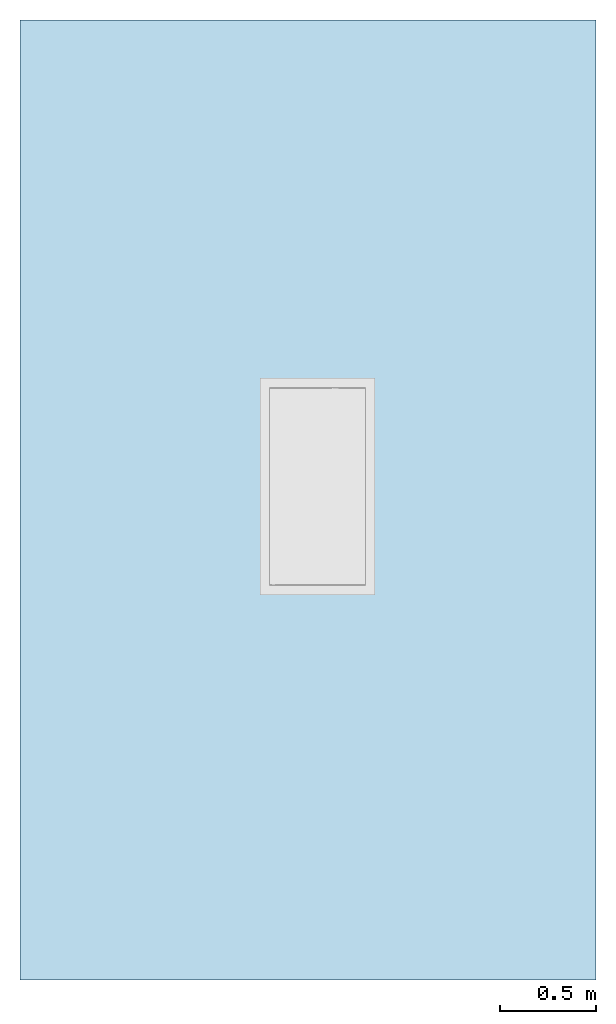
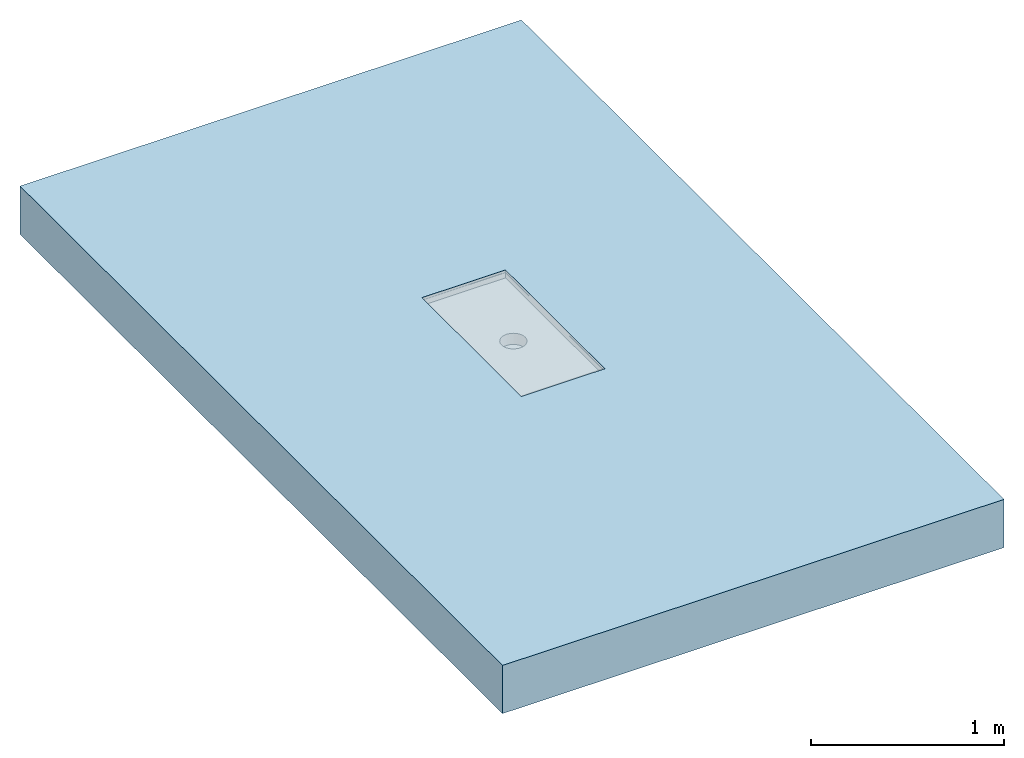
# One storey, incomplete: 1 slab, 1 opening.
"""IFC2X3 building model written with IfcOpenShell, lengths in millimetres."""

from ifc_helpers import new_model, entity, si_unit, converted_unit, derived_unit, direction, frame, frame_2d, origin, place, context, subcontext, project, spatial, rectangle, extrude, faceted_brep, material, layer, layer_set, layer_usage, element, save


model = new_model("IFC2X3")

# Units and contexts
model_context = context("Model", 3, precision=1e-05, world=origin(), true_north=direction((2.0, 6.12303176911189e-17, 1.0)))
context_of_model = context(None, 3, precision=1e-05, world=origin(), true_north=direction((2.0, 6.12303176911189e-17, 1.0)))
body_context = subcontext(model_context, "Body", "Model", "MODEL_VIEW")
ifc_project = project(units=[si_unit("LENGTHUNIT", "METRE", prefix="MILLI"), converted_unit("AREAUNIT", "SQUARE FOOT", entity("IfcRatioMeasure", 0.09290304), si_unit("AREAUNIT", "SQUARE_METRE"), dimensions=[2, 0, 0, 0, 0, 0, 0]), converted_unit("VOLUMEUNIT", "CUBIC FOOT", entity("IfcRatioMeasure", 0.028316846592), si_unit("VOLUMEUNIT", "CUBIC_METRE"), dimensions=[3, 0, 0, 0, 0, 0, 0]), converted_unit("PLANEANGLEUNIT", "DEGREE", entity("IfcRatioMeasure", 0.0174532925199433), si_unit("PLANEANGLEUNIT", "RADIAN"), dimensions=[0, 0, 0, 0, 0, 0, 0]), si_unit("MASSUNIT", "GRAM", prefix="KILO"), si_unit("TIMEUNIT", "SECOND"), si_unit("THERMODYNAMICTEMPERATUREUNIT", "KELVIN"), derived_unit("THERMALTRANSMITTANCEUNIT", [(si_unit("MASSUNIT", "GRAM", prefix="KILO"), 1), (si_unit("THERMODYNAMICTEMPERATUREUNIT", "KELVIN"), -1), (si_unit("TIMEUNIT", "SECOND"), -3)]), derived_unit("VOLUMETRICFLOWRATEUNIT", [(si_unit("LENGTHUNIT", "METRE"), 3), (si_unit("TIMEUNIT", "SECOND"), -1)]), si_unit("POWERUNIT", "WATT")], contexts=[model_context, context_of_model])

# Site, building, storey
site_placement = place(None, origin())
site = spatial("IfcSite", under=ifc_project, at=site_placement, Name="Default", CompositionType="ELEMENT")
building_placement = place(site_placement, origin())
building = spatial("IfcBuilding", under=site, at=building_placement, CompositionType="ELEMENT")
storey_placement = place(building_placement, origin())
storey = spatial("IfcBuildingStorey", under=building, at=storey_placement, Name="Level 1", CompositionType="ELEMENT", Elevation=0.0)

# Slab, opening
ifc_material = material(Name="Default Floor")
ifc_layer = layer(ifc_material, 304.8)
ifc_layer_set = layer_set([ifc_layer], Name="Floor:Generic - 12\"")
ifc_layer_usage = layer_usage(ifc_layer_set, "AXIS3", "POSITIVE", 0.0)
slab_placement = place(storey_placement, frame((-2592.42688678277, 381.838531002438, -304.8)))
slab = element("IfcSlab", 1, at=slab_placement, inside=storey, material=ifc_layer_usage, Name="Floor:Generic - 12\"", ObjectType="Floor:Generic - 12\"", PredefinedType="FLOOR", context=body_context, shape_type="SweptSolid", body=[
    extrude(rectangle(XDim=5000.0, YDim=3000.0, at=frame_2d((0.0, 0.0), x_axis=(0.0, -1.0))), frame((1500.0, 2500.0, 304.8), z_axis=(0.0, 0.0, -1.0), x_axis=(-1.0, 0.0, 0.0)), (0.0, 0.0, 1.0), 304.8),
])
opening_placement = place(slab_placement, frame((1249.39778688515, 2005.9417424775, 184.151793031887)))
element("IfcOpeningElement", 2, at=opening_placement, cuts=slab, ObjectType="Recess", context=body_context, shape_type="Brep", body=[
    faceted_brep([(549.667309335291, 50.0, 70.6482069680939), (549.667309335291, 50.0, 104.148206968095), (50.0, 50.0, 70.6482069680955), (50.0, 50.0, 104.148206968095), (549.667309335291, 50.0, 105.648206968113), (549.667309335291, 50.0, 120.648206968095), (50.0, 50.0, 120.648206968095), (50.0, 50.0, 105.648206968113), (50.0, 1080.0, 70.6482069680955), (50.0, 1080.0, 104.148206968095), (549.667309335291, 1080.0, 104.148206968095), (549.667309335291, 1080.0, 70.6482069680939), (50.0, 1080.0, 105.648206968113), (50.0, 1080.0, 120.648206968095), (549.667309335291, 1080.0, 120.648206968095), (549.667309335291, 1080.0, 105.648206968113), (264.333654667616, 503.512196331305, 70.6482069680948), (281.457502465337, 496.419266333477, 70.6482069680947), (249.629073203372, 514.795418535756, 70.6482069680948), (299.833654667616, 494.0, 70.6482069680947), (228.833654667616, 565.0, 70.6482069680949), (231.252921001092, 546.623847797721, 70.6482069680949), (238.345850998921, 529.5, 70.6482069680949), (318.209806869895, 496.419266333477, 70.6482069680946), (335.333654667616, 503.512196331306, 70.6482069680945), (350.038236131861, 514.795418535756, 70.6482069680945), (361.321458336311, 529.500000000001, 70.6482069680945), (368.41438833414, 546.623847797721, 70.6482069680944), (370.833654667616, 565.0, 70.6482069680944), (238.345850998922, 600.500000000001, 70.6482069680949), (231.252921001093, 583.37615220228, 70.6482069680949), (249.629073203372, 615.204581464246, 70.6482069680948), (264.333654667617, 626.487803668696, 70.6482069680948), (281.457502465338, 633.580733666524, 70.6482069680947), (299.833654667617, 636.0, 70.6482069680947), (368.41438833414, 583.376152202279, 70.6482069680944), (361.321458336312, 600.5, 70.6482069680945), (335.333654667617, 626.487803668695, 70.6482069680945), (318.209806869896, 633.580733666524, 70.6482069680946), (350.038236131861, 615.204581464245, 70.6482069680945), (249.629073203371, 514.795418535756, 0.0), (299.833654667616, 494.0, 0.0), (281.457502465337, 496.419266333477, 0.0), (264.333654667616, 503.512196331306, 0.0), (238.345850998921, 529.500000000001, 0.0), (231.252921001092, 546.623847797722, 0.0), (264.333654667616, 626.487803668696, 0.0), (350.038236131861, 514.795418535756, 0.0), (335.333654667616, 626.487803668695, 0.0), (335.333654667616, 503.512196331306, 0.0), (318.209806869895, 496.419266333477, 0.0), (361.321458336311, 529.500000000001, 0.0), (361.321458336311, 600.5, 0.0), (368.41438833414, 546.623847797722, 0.0), (370.833654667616, 565.0, 0.0), (368.41438833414, 583.376152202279, 0.0), (231.252921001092, 583.37615220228, 0.0), (238.345850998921, 600.500000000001, 0.0), (249.629073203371, 615.204581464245, 0.0), (281.457502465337, 633.580733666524, 0.0), (318.209806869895, 633.580733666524, 0.0), (350.038236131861, 615.204581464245, 0.0), (299.833654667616, 636.0, 0.0), (228.833654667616, 565.0, 0.0), (0.0, 0.0, 104.148206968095), (599.667309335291, 0.0, 104.148206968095), (0.0, 1130.0, 104.148206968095), (599.667309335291, 1130.0, 104.148206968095), (0.0, 1130.0, 105.648206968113), (599.667309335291, 1130.0, 105.648206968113), (0.0, 0.0, 105.648206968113), (599.667309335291, 0.0, 105.648206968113)], [[[0, 1, 2]], [[3, 2, 1]], [[4, 5, 6]], [[6, 7, 4]], [[8, 9, 10]], [[10, 11, 8]], [[12, 13, 14]], [[14, 15, 12]], [[7, 6, 12]], [[13, 12, 6]], [[2, 3, 9]], [[9, 8, 2]], [[1, 0, 11]], [[11, 10, 1]], [[5, 4, 14]], [[15, 14, 4]], [[6, 5, 14]], [[14, 13, 6]], [[2, 16, 17]], [[16, 2, 18]], [[2, 17, 19]], [[20, 21, 2]], [[22, 18, 2]], [[21, 22, 2]], [[2, 8, 20]], [[0, 19, 23]], [[19, 0, 2]], [[0, 23, 24]], [[24, 25, 0]], [[26, 27, 0]], [[25, 26, 0]], [[0, 27, 28]], [[29, 30, 8]], [[31, 29, 8]], [[32, 8, 33]], [[8, 32, 31]], [[34, 33, 8]], [[8, 11, 34]], [[30, 20, 8]], [[35, 36, 11]], [[28, 35, 11]], [[37, 38, 11]], [[39, 11, 36]], [[11, 39, 37]], [[38, 34, 11]], [[28, 11, 0]], [[40, 41, 42]], [[40, 42, 43]], [[40, 44, 45]], [[41, 40, 46]], [[47, 41, 48]], [[41, 49, 50]], [[41, 47, 49]], [[51, 52, 53]], [[54, 53, 55]], [[52, 51, 47]], [[45, 56, 40]], [[56, 57, 40]], [[40, 57, 58]], [[46, 59, 41]], [[46, 40, 58]], [[41, 59, 60]], [[52, 48, 61]], [[52, 55, 53]], [[60, 48, 41]], [[47, 48, 52]], [[62, 60, 59]], [[56, 45, 63]], [[36, 52, 61]], [[37, 48, 60]], [[61, 48, 39]], [[38, 60, 62]], [[28, 55, 35]], [[55, 28, 54]], [[35, 55, 36]], [[55, 52, 36]], [[61, 39, 36]], [[37, 39, 48]], [[60, 38, 37]], [[62, 34, 38]], [[33, 59, 46]], [[58, 32, 46]], [[29, 57, 56]], [[58, 57, 31]], [[30, 56, 63]], [[59, 33, 34]], [[46, 32, 33]], [[58, 31, 32]], [[57, 29, 31]], [[30, 29, 56]], [[63, 20, 30]], [[59, 34, 62]], [[45, 21, 63]], [[44, 22, 45]], [[42, 41, 17]], [[40, 18, 44]], [[45, 22, 21]], [[21, 20, 63]], [[16, 43, 17]], [[16, 18, 40]], [[43, 42, 17]], [[18, 22, 44]], [[40, 43, 16]], [[41, 19, 17]], [[23, 50, 49]], [[47, 24, 49]], [[26, 51, 53]], [[47, 51, 25]], [[27, 53, 54]], [[50, 23, 19]], [[49, 24, 23]], [[47, 25, 24]], [[51, 26, 25]], [[27, 26, 53]], [[54, 28, 27]], [[50, 19, 41]], [[64, 3, 1]], [[3, 64, 9]], [[65, 1, 10]], [[1, 65, 64]], [[9, 66, 10]], [[66, 9, 64]], [[10, 67, 65]], [[67, 10, 66]], [[68, 12, 15]], [[12, 68, 7]], [[69, 15, 4]], [[15, 69, 68]], [[7, 70, 4]], [[70, 7, 68]], [[4, 71, 69]], [[71, 4, 70]], [[70, 68, 66]], [[66, 64, 70]], [[71, 70, 64]], [[64, 65, 71]], [[69, 71, 65]], [[65, 67, 69]], [[68, 69, 67]], [[67, 66, 68]]]),
])

save(model, "model.ifc")
